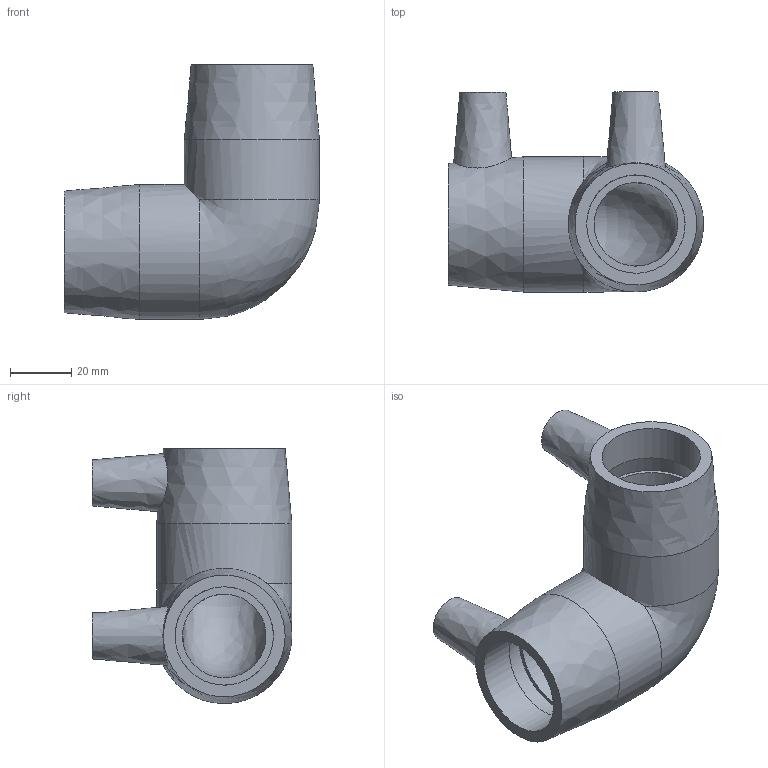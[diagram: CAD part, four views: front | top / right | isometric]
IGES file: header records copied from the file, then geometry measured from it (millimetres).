
Global section: file name: 490504032; native system: Autodesk Inventor 2026; preprocessor: unknown; author: KIM; date: 20260322.131454; units: millimetre
Bounding box: 83 x 65 x 82.98 mm (x, y, z)
Volume: 88377.6 mm3; surface area: 31726.3 mm2
Topology: 1 solids, 1 shells, 30 faces, 66 edges, 46 vertices
Faces by surface type: bspline 30
